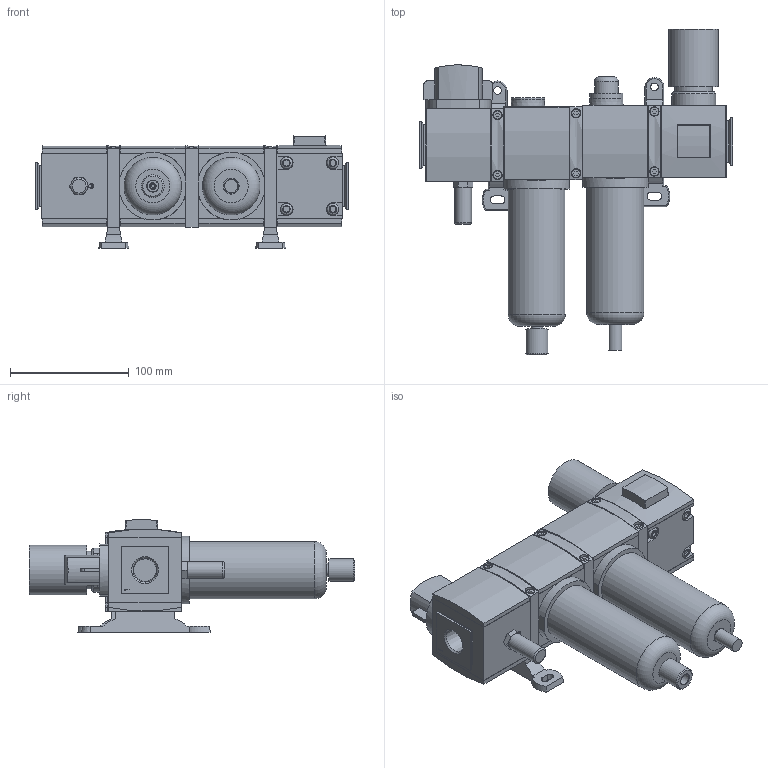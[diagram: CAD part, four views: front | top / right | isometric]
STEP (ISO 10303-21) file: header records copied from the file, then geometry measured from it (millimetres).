
FILE_DESCRIPTION( ( 'STEP AP214' ), '1' );
FILE_NAME( 'p:/temp/worker_274/temp/exporttempdir_5068_264_MNU6y/format_0/07342020-200223_gen_22706.stp', '2020-02-07T19:34:25', ( '' ), ( '' ), ' ', 'PARTsolutions', ' ' );
FILE_SCHEMA( ( 'AUTOMOTIVE_DESIGN { 1 0 10303 214 1 1 1 1 }' ) );
Length unit declared in the file: millimetre
Products named in the file (21): 07342020-200223_gen_22706; _433433015-F--0-A00129L; _433441-002-SV-0; _437742-001-100; _M2MN_652; _G652ASLA0B00A00_LS; _431787-003-F-A00PJBN1; _440511-008-P; _440512-002-N; _433441-001-R-0; _439851-002; _G652ASLA0A00A00_LS; _431787-003-F-A00PHM01; _501862-002-C; _439851-001; _437794-003-F-HGL; _433441-001-R-H; _438047-009; _433879-001; _433894-001; _440508-001-STANDARD
Assembly tree (27 placements, depth 2):
  07342020-200223_gen_22706
    _433433015-F--0-A00129L
    _433441-002-SV-0  x2
    _437742-001-100
    _M2MN_652
    _G652ASLA0B00A00_LS  x2
    _431787-003-F-A00PJBN1
    _440511-008-P  x2
    _440512-002-N
    _433441-001-R-0  x5
    _439851-002
    _G652ASLA0A00A00_LS
    _431787-003-F-A00PHM01
    _501862-002-C
    _439851-001
    _437794-003-F-HGL
    _433441-001-R-H
    _438047-009
    _433879-001
    _433894-001
    _440508-001-STANDARD
Bounding box: 264 x 274.02 x 94.91 mm (x, y, z)
Volume: 1680432.8 mm3; surface area: 296424.2 mm2
Topology: 27 solids, 27 shells, 953 faces, 2278 edges, 1478 vertices
Faces by surface type: plane 754, cylinder 117, cone 66, torus 14, sphere 2
Full cylindrical faces by diameter (mm): 2.8 x2, 3 x2, 5 x1, 5.6 x8, 6.3 x8, 6.5 x2, 7 x6, 7.8 x6, 8.25 x4, 9.728 x2, 10 x8, 11.3 x1, 13.5 x1, 14.224 x1, 15.1 x1, 19 x1, 19.847 x1, 28 x1, 31.6 x1, 37 x1, 41.845 x1, 48.5 x2
Entity records: 31713 total; most frequent: CARTESIAN_POINT 4779, DIRECTION 3961, ORIENTED_EDGE 3872, EDGE_CURVE 1936, LINE 1587, VECTOR 1587, VERTEX_POINT 1325, AXIS2_PLACEMENT_3D 1187
